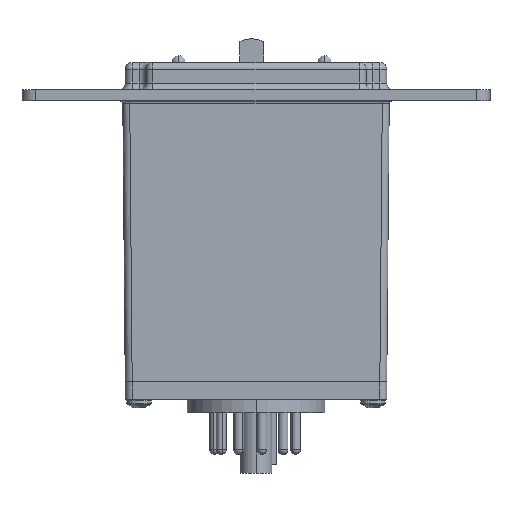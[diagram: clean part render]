
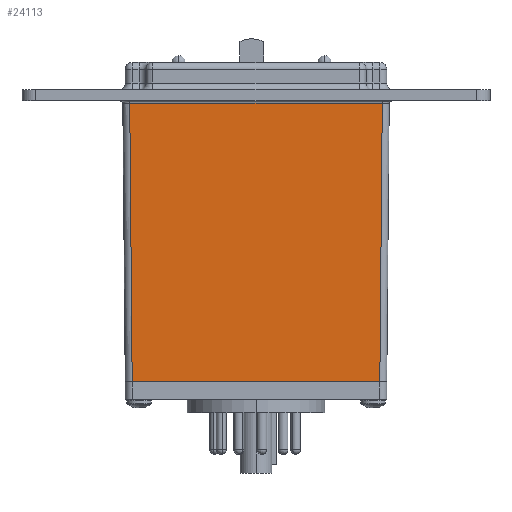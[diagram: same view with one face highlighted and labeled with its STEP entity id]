
A CAD part, left-side view. The second image highlights one B-rep face of the part: STEP entity #24113.
In plain terms, the highlighted planar face has unit normal (-1, 0, -0.009).
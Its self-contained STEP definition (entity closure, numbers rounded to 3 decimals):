
#170 = VERTEX_POINT ( 'NONE', #15381 ) ;
#1377 = CARTESIAN_POINT ( 'NONE',  ( -22.786, -29.123, 64.266 ) ) ;
#2541 = CARTESIAN_POINT ( 'NONE',  ( -22.225, 30.162, 0. ) ) ;
#4614 = LINE ( 'NONE', #33058, #42689 ) ;
#10856 = EDGE_CURVE ( 'NONE', #44504, #36395, #43344, .T. ) ;
#10967 = DIRECTION ( 'NONE',  ( 0., -1., 0. ) ) ;
#13730 = DIRECTION ( 'NONE',  ( -0.009, 0., 1. ) ) ;
#14855 = EDGE_LOOP ( 'NONE', ( #30191, #37287, #41475, #35999 ) ) ;
#15381 = CARTESIAN_POINT ( 'NONE',  ( -22.225, -28.562, 0. ) ) ;
#16508 = CARTESIAN_POINT ( 'NONE',  ( -22.225, 28.562, 0. ) ) ;
#16782 = DIRECTION ( 'NONE',  ( -1., 0., -0.009 ) ) ;
#19003 = VERTEX_POINT ( 'NONE', #1377 ) ;
#19581 = LINE ( 'NONE', #44557, #39509 ) ;
#21192 = EDGE_CURVE ( 'NONE', #36395, #170, #39892, .T. ) ;
#22089 = CARTESIAN_POINT ( 'NONE',  ( -22.225, 28.562, 0.014 ) ) ;
#23734 = FACE_OUTER_BOUND ( 'NONE', #14855, .T. ) ;
#24113 = ADVANCED_FACE ( 'NONE', ( #23734 ), #27506, .T. ) ;
#27506 = PLANE ( 'NONE',  #42860 ) ;
#29027 = DIRECTION ( 'NONE',  ( -0.009, -0.009, 1. ) ) ;
#29222 = VECTOR ( 'NONE', #10967, 1000. ) ;
#30191 = ORIENTED_EDGE ( 'NONE', *, *, #34769, .T. ) ;
#33058 = CARTESIAN_POINT ( 'NONE',  ( -22.786, 29.128, 64.266 ) ) ;
#34769 = EDGE_CURVE ( 'NONE', #170, #19003, #19581, .T. ) ;
#35999 = ORIENTED_EDGE ( 'NONE', *, *, #21192, .T. ) ;
#36371 = DIRECTION ( 'NONE',  ( 0.009, -0.009, -1. ) ) ;
#36395 = VERTEX_POINT ( 'NONE', #16508 ) ;
#37287 = ORIENTED_EDGE ( 'NONE', *, *, #45508, .T. ) ;
#39436 = CARTESIAN_POINT ( 'NONE',  ( -22.225, 30.162, 0. ) ) ;
#39509 = VECTOR ( 'NONE', #29027, 1000. ) ;
#39892 = LINE ( 'NONE', #39436, #29222 ) ;
#40983 = DIRECTION ( 'NONE',  ( 0., 1., 0. ) ) ;
#41475 = ORIENTED_EDGE ( 'NONE', *, *, #10856, .T. ) ;
#41705 = VECTOR ( 'NONE', #36371, 1000. ) ;
#42689 = VECTOR ( 'NONE', #40983, 1000. ) ;
#42860 = AXIS2_PLACEMENT_3D ( 'NONE', #2541, #16782, #13730 ) ;
#43344 = LINE ( 'NONE', #22089, #41705 ) ;
#43413 = CARTESIAN_POINT ( 'NONE',  ( -22.786, 29.123, 64.266 ) ) ;
#44504 = VERTEX_POINT ( 'NONE', #43413 ) ;
#44557 = CARTESIAN_POINT ( 'NONE',  ( -22.221, -28.558, -0.512 ) ) ;
#45508 = EDGE_CURVE ( 'NONE', #19003, #44504, #4614, .T. ) ;
